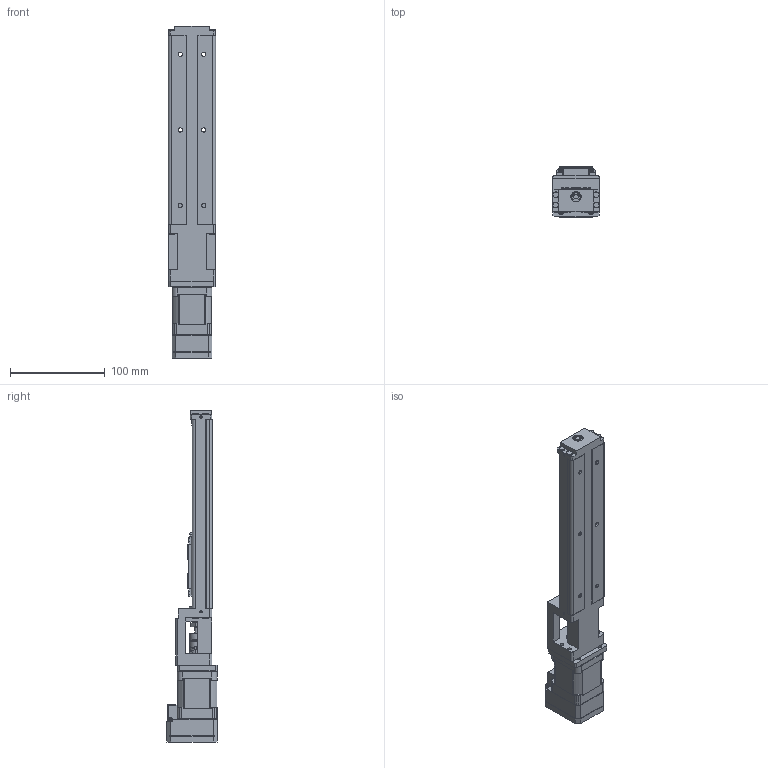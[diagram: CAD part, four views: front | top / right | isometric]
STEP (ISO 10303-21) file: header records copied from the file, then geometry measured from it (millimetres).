
FILE_DESCRIPTION (( 'STEP AP214' ), '1' );
FILE_NAME ('SPA26-A-02-110-S-00A0-17L30-X.STEP', '2015-01-06T17:55:32', ( '' ), ( '' ), 'SwSTEP 2.0', 'SolidWorks 2015', '' );
FILE_SCHEMA (( 'AUTOMOTIVE_DESIGN' ));
Length unit declared in the file: millimetre
Products named in the file (5): SPA26-A-02-110-S-00A0; RCLA16C-5-5; PA26-NEMA17-MountingBracket; CM1-X-17L30-NE-RENDER; SPA26-A-02-110-S-00A0-17L30-X
Assembly tree (4 placements, depth 2):
  SPA26-A-02-110-S-00A0-17L30-X
    CM1-X-17L30-NE-RENDER
    PA26-NEMA17-MountingBracket
    RCLA16C-5-5
    SPA26-A-02-110-S-00A0
Bounding box: 50 x 53 x 351.3 mm (x, y, z)
Volume: 348953.9 mm3; surface area: 106901.2 mm2
Topology: 4 solids, 6 shells, 1800 faces, 4967 edges, 3227 vertices
Faces by surface type: plane 1125, cylinder 530, cone 115, bspline 20, torus 8, sphere 2
Entity records: 70884 total; most frequent: CARTESIAN_POINT 11269, ORIENTED_EDGE 9788, DIRECTION 9650, EDGE_CURVE 4933, LINE 3538, VECTOR 3538, VERTEX_POINT 3227, AXIS2_PLACEMENT_3D 3056
